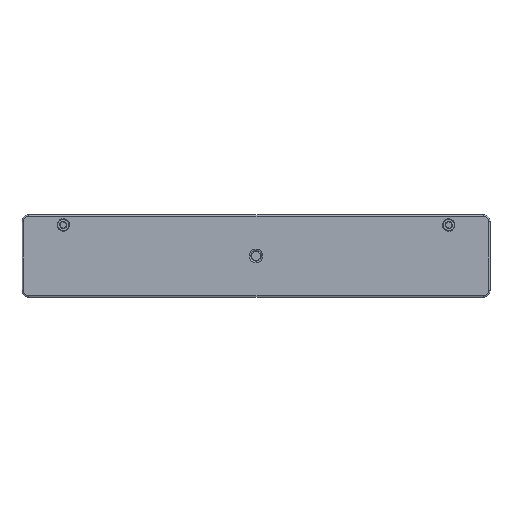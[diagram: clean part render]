
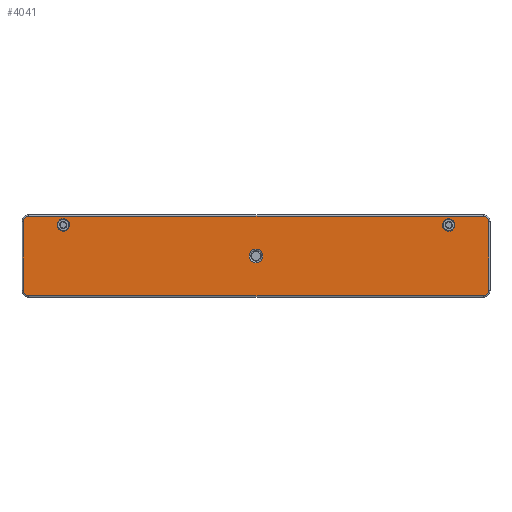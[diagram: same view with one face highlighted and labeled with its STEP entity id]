
A CAD part, top view. The second image highlights one B-rep face of the part: STEP entity #4041.
In plain terms, the highlighted planar face has unit normal (0, 0, 1).
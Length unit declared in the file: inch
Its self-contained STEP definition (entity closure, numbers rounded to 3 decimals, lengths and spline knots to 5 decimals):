
#68 = AXIS2_PLACEMENT_3D ( 'NONE', #15334, #15335, #15336 ) ;
#69 = AXIS2_PLACEMENT_3D ( 'NONE', #15331, #15332, #15333 ) ;
#71 = VECTOR ( 'NONE', #15325, 39.37008 ) ;
#72 = VECTOR ( 'NONE', #15319, 39.37008 ) ;
#74 = VECTOR ( 'NONE', #15313, 39.37008 ) ;
#75 = AXIS2_PLACEMENT_3D ( 'NONE', #15328, #15329, #15330 ) ;
#76 = VECTOR ( 'NONE', #15310, 39.37008 ) ;
#77 = AXIS2_PLACEMENT_3D ( 'NONE', #15307, #15314, #15315 ) ;
#79 = AXIS2_PLACEMENT_3D ( 'NONE', #15316, #15320, #15321 ) ;
#83 = AXIS2_PLACEMENT_3D ( 'NONE', #15253, #15305, #15306 ) ;
#97 = AXIS2_PLACEMENT_3D ( 'NONE', #15322, #15326, #15327 ) ;
#236 = AXIS2_PLACEMENT_3D ( 'NONE', #13805, #13806, #13807 ) ;
#786 = PLANE ( 'NONE',  #1448 ) ;
#787 = CARTESIAN_POINT ( 'NONE',  ( 0., 1.5, 0.375 ) ) ;
#788 = DIRECTION ( 'NONE',  ( 0., 0., -1. ) ) ;
#789 = DIRECTION ( 'NONE',  ( -1., 0., 0. ) ) ;
#833 = CARTESIAN_POINT ( 'NONE',  ( 4.25, 0.75, 0.375 ) ) ;
#834 = DIRECTION ( 'NONE',  ( 0., 0., -1. ) ) ;
#835 = DIRECTION ( 'NONE',  ( -1., 0., 0. ) ) ;
#836 = CARTESIAN_POINT ( 'NONE',  ( 7.75, 1.3125, 0.375 ) ) ;
#837 = DIRECTION ( 'NONE',  ( 0., 0., -1. ) ) ;
#838 = DIRECTION ( 'NONE',  ( -1., 0., 0. ) ) ;
#1446 = FACE_OUTER_BOUND ( 'NONE', #11461, .T. ) ;
#1448 = AXIS2_PLACEMENT_3D ( 'NONE', #787, #788, #789 ) ;
#1449 = FACE_BOUND ( 'NONE', #11442, .T. ) ;
#1452 = FACE_BOUND ( 'NONE', #11454, .T. ) ;
#1454 = FACE_BOUND ( 'NONE', #11364, .T. ) ;
#1474 = AXIS2_PLACEMENT_3D ( 'NONE', #836, #837, #838 ) ;
#1480 = AXIS2_PLACEMENT_3D ( 'NONE', #833, #834, #835 ) ;
#3544 = EDGE_CURVE ( 'NONE', #13751, #13765, #12861, .T. ) ;
#3626 = EDGE_CURVE ( 'NONE', #10624, #10748, #12884, .T. ) ;
#3627 = EDGE_CURVE ( 'NONE', #10689, #10624, #15308, .T. ) ;
#3628 = EDGE_CURVE ( 'NONE', #10748, #10696, #15311, .T. ) ;
#3629 = EDGE_CURVE ( 'NONE', #10696, #10625, #12885, .T. ) ;
#3630 = EDGE_CURVE ( 'NONE', #10625, #10697, #15317, .T. ) ;
#3631 = EDGE_CURVE ( 'NONE', #10697, #10626, #12886, .T. ) ;
#3632 = EDGE_CURVE ( 'NONE', #10626, #10698, #15323, .T. ) ;
#3633 = EDGE_CURVE ( 'NONE', #10698, #10689, #12887, .T. ) ;
#3634 = EDGE_CURVE ( 'NONE', #13768, #13767, #12888, .T. ) ;
#3635 = EDGE_CURVE ( 'NONE', #13766, #13750, #12889, .T. ) ;
#3636 = EDGE_CURVE ( 'NONE', #13765, #13751, #12890, .T. ) ;
#4041 = ADVANCED_FACE ( 'NONE', ( #1446, #1449, #1452, #1454 ), #786, .F. ) ;
#4056 = EDGE_CURVE ( 'NONE', #13767, #13768, #13003, .T. ) ;
#4057 = EDGE_CURVE ( 'NONE', #13750, #13766, #13004, .T. ) ;
#5050 = CARTESIAN_POINT ( 'NONE',  ( 8.375, 0.025, 0.375 ) ) ;
#5051 = CARTESIAN_POINT ( 'NONE',  ( 8.375, 1.475, 0.375 ) ) ;
#5052 = CARTESIAN_POINT ( 'NONE',  ( 0.025, 1.375, 0.375 ) ) ;
#5115 = CARTESIAN_POINT ( 'NONE',  ( 0.125, 0.025, 0.375 ) ) ;
#5122 = CARTESIAN_POINT ( 'NONE',  ( 8.475, 1.375, 0.375 ) ) ;
#5123 = CARTESIAN_POINT ( 'NONE',  ( 0.125, 1.475, 0.375 ) ) ;
#5124 = CARTESIAN_POINT ( 'NONE',  ( 0.025, 0.125, 0.375 ) ) ;
#5174 = CARTESIAN_POINT ( 'NONE',  ( 8.475, 0.125, 0.375 ) ) ;
#9704 = CARTESIAN_POINT ( 'NONE',  ( 7.67175, 1.3125, 0.375 ) ) ;
#9705 = CARTESIAN_POINT ( 'NONE',  ( 0.67175, 1.3125, 0.375 ) ) ;
#9719 = CARTESIAN_POINT ( 'NONE',  ( 0.82825, 1.3125, 0.375 ) ) ;
#9720 = CARTESIAN_POINT ( 'NONE',  ( 7.82825, 1.3125, 0.375 ) ) ;
#9721 = CARTESIAN_POINT ( 'NONE',  ( 4.1245, 0.75, 0.375 ) ) ;
#9722 = CARTESIAN_POINT ( 'NONE',  ( 4.3755, 0.75, 0.375 ) ) ;
#10101 = ORIENTED_EDGE ( 'NONE', *, *, #3627, .T. ) ;
#10102 = ORIENTED_EDGE ( 'NONE', *, *, #3628, .T. ) ;
#10103 = ORIENTED_EDGE ( 'NONE', *, *, #3626, .T. ) ;
#10104 = ORIENTED_EDGE ( 'NONE', *, *, #3629, .T. ) ;
#10105 = ORIENTED_EDGE ( 'NONE', *, *, #3630, .T. ) ;
#10106 = ORIENTED_EDGE ( 'NONE', *, *, #3631, .T. ) ;
#10107 = ORIENTED_EDGE ( 'NONE', *, *, #3632, .T. ) ;
#10108 = ORIENTED_EDGE ( 'NONE', *, *, #3633, .T. ) ;
#10110 = ORIENTED_EDGE ( 'NONE', *, *, #3634, .T. ) ;
#10111 = ORIENTED_EDGE ( 'NONE', *, *, #4056, .T. ) ;
#10112 = ORIENTED_EDGE ( 'NONE', *, *, #3635, .T. ) ;
#10113 = ORIENTED_EDGE ( 'NONE', *, *, #4057, .T. ) ;
#10114 = ORIENTED_EDGE ( 'NONE', *, *, #3636, .T. ) ;
#10115 = ORIENTED_EDGE ( 'NONE', *, *, #3544, .T. ) ;
#10624 = VERTEX_POINT ( 'NONE', #5050 ) ;
#10625 = VERTEX_POINT ( 'NONE', #5051 ) ;
#10626 = VERTEX_POINT ( 'NONE', #5052 ) ;
#10689 = VERTEX_POINT ( 'NONE', #5115 ) ;
#10696 = VERTEX_POINT ( 'NONE', #5122 ) ;
#10697 = VERTEX_POINT ( 'NONE', #5123 ) ;
#10698 = VERTEX_POINT ( 'NONE', #5124 ) ;
#10748 = VERTEX_POINT ( 'NONE', #5174 ) ;
#11364 = EDGE_LOOP ( 'NONE', ( #10115, #10114 ) ) ;
#11442 = EDGE_LOOP ( 'NONE', ( #10111, #10110 ) ) ;
#11454 = EDGE_LOOP ( 'NONE', ( #10113, #10112 ) ) ;
#11461 = EDGE_LOOP ( 'NONE', ( #10101, #10103, #10102, #10104, #10105, #10106, #10107, #10108 ) ) ;
#12861 = CIRCLE ( 'NONE', #236, 0.07825 ) ;
#12884 = CIRCLE ( 'NONE', #83, 0.1 ) ;
#12885 = CIRCLE ( 'NONE', #77, 0.1 ) ;
#12886 = CIRCLE ( 'NONE', #79, 0.1 ) ;
#12887 = CIRCLE ( 'NONE', #97, 0.1 ) ;
#12888 = CIRCLE ( 'NONE', #75, 0.1255 ) ;
#12889 = CIRCLE ( 'NONE', #69, 0.07825 ) ;
#12890 = CIRCLE ( 'NONE', #68, 0.07825 ) ;
#13003 = CIRCLE ( 'NONE', #1480, 0.1255 ) ;
#13004 = CIRCLE ( 'NONE', #1474, 0.07825 ) ;
#13750 = VERTEX_POINT ( 'NONE', #9704 ) ;
#13751 = VERTEX_POINT ( 'NONE', #9705 ) ;
#13765 = VERTEX_POINT ( 'NONE', #9719 ) ;
#13766 = VERTEX_POINT ( 'NONE', #9720 ) ;
#13767 = VERTEX_POINT ( 'NONE', #9721 ) ;
#13768 = VERTEX_POINT ( 'NONE', #9722 ) ;
#13805 = CARTESIAN_POINT ( 'NONE',  ( 0.75, 1.3125, 0.375 ) ) ;
#13806 = DIRECTION ( 'NONE',  ( 0., 0., -1. ) ) ;
#13807 = DIRECTION ( 'NONE',  ( -1., 0., 0. ) ) ;
#15253 = CARTESIAN_POINT ( 'NONE',  ( 8.375, 0.125, 0.375 ) ) ;
#15305 = DIRECTION ( 'NONE',  ( 0., 0., 1. ) ) ;
#15306 = DIRECTION ( 'NONE',  ( -1., 0., 0. ) ) ;
#15307 = CARTESIAN_POINT ( 'NONE',  ( 8.375, 1.375, 0.375 ) ) ;
#15308 = LINE ( 'NONE', #15309, #76 ) ;
#15309 = CARTESIAN_POINT ( 'NONE',  ( 0., 0.025, 0.375 ) ) ;
#15310 = DIRECTION ( 'NONE',  ( 1., 0., 0. ) ) ;
#15311 = LINE ( 'NONE', #15312, #74 ) ;
#15312 = CARTESIAN_POINT ( 'NONE',  ( 8.475, 1.5, 0.375 ) ) ;
#15313 = DIRECTION ( 'NONE',  ( 0., 1., 0. ) ) ;
#15314 = DIRECTION ( 'NONE',  ( 0., 0., 1. ) ) ;
#15315 = DIRECTION ( 'NONE',  ( -1., 0., 0. ) ) ;
#15316 = CARTESIAN_POINT ( 'NONE',  ( 0.125, 1.375, 0.375 ) ) ;
#15317 = LINE ( 'NONE', #15318, #72 ) ;
#15318 = CARTESIAN_POINT ( 'NONE',  ( 0., 1.475, 0.375 ) ) ;
#15319 = DIRECTION ( 'NONE',  ( -1., 0., 0. ) ) ;
#15320 = DIRECTION ( 'NONE',  ( 0., 0., 1. ) ) ;
#15321 = DIRECTION ( 'NONE',  ( -1., 0., 0. ) ) ;
#15322 = CARTESIAN_POINT ( 'NONE',  ( 0.125, 0.125, 0.375 ) ) ;
#15323 = LINE ( 'NONE', #15324, #71 ) ;
#15324 = CARTESIAN_POINT ( 'NONE',  ( 0.025, 1.5, 0.375 ) ) ;
#15325 = DIRECTION ( 'NONE',  ( 0., -1., 0. ) ) ;
#15326 = DIRECTION ( 'NONE',  ( 0., 0., 1. ) ) ;
#15327 = DIRECTION ( 'NONE',  ( -1., 0., 0. ) ) ;
#15328 = CARTESIAN_POINT ( 'NONE',  ( 4.25, 0.75, 0.375 ) ) ;
#15329 = DIRECTION ( 'NONE',  ( 0., 0., -1. ) ) ;
#15330 = DIRECTION ( 'NONE',  ( -1., 0., 0. ) ) ;
#15331 = CARTESIAN_POINT ( 'NONE',  ( 7.75, 1.3125, 0.375 ) ) ;
#15332 = DIRECTION ( 'NONE',  ( 0., 0., -1. ) ) ;
#15333 = DIRECTION ( 'NONE',  ( -1., 0., 0. ) ) ;
#15334 = CARTESIAN_POINT ( 'NONE',  ( 0.75, 1.3125, 0.375 ) ) ;
#15335 = DIRECTION ( 'NONE',  ( 0., 0., -1. ) ) ;
#15336 = DIRECTION ( 'NONE',  ( -1., 0., 0. ) ) ;
